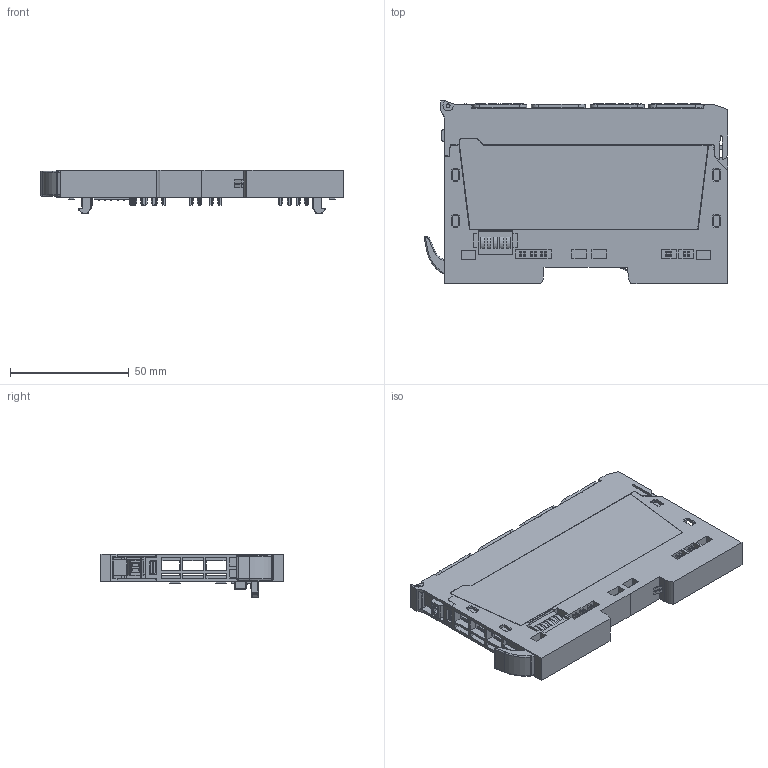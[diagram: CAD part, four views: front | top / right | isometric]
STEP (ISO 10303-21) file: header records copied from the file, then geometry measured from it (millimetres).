
FILE_DESCRIPTION(('CATIA V5R24 STEP','CAx-IF Rec.Pracs.--- Model Styling and Organization---1.2---2011-12-15'),'2;1');
FILE_NAME('\\srvde068\desktop\W007374\brandlable laser layout\Mitsubishi\SP_UR20-1COM-232-485-422.stp','2018-05-17T08:40:47+00:00',('Weidmueller Interface'),('WI'),'CATIA Version 5-6 Release 2014 SP4 HF52','CATIA V5 STEP AP214','none');
FILE_SCHEMA(('AUTOMOTIVE_DESIGN { 1 0 10303 214 1 1 1 1 }'));
Products named in the file (10): SP_UR20-1COM-232-485-422; SP_UR20_HO_BM_PF_I; SP_UR20_EM_SP_PF_I; SP_UR20_HO_EM; 54154_UR20_PCB_PG1-5_PF_I; SP_UR20_PK_PF_I; SP_UR20_CNFR; SP_UR20_PG1-5; SP_UR20_PG1-5_NC; SP_UR20_PG1-5-2
Assembly tree (10 placements, depth 3):
  SP_UR20-1COM-232-485-422
    SP_UR20_HO_BM_PF_I
    SP_UR20_EM_SP_PF_I
      SP_UR20_HO_EM
      54154_UR20_PCB_PG1-5_PF_I
    SP_UR20_PK_PF_I
      SP_UR20_CNFR
      SP_UR20_PG1-5  x2
      SP_UR20_PG1-5_NC
      SP_UR20_PG1-5-2
Bounding box: 127.88 x 77.45 x 18.5 mm (x, y, z)
Volume: 63106.7 mm3; surface area: 70032.9 mm2
Topology: 8 solids, 8 shells, 3309 faces, 9334 edges, 6163 vertices
Faces by surface type: plane 2777, cylinder 486, torus 18, bspline 16, sphere 10, cone 2
Entity records: 92124 total; most frequent: CARTESIAN_POINT 17798, ORIENTED_EDGE 16936, DIRECTION 11705, EDGE_CURVE 8468, VECTOR 7064, LINE 7064, VERTEX_POINT 5593, EDGE_LOOP 3271
